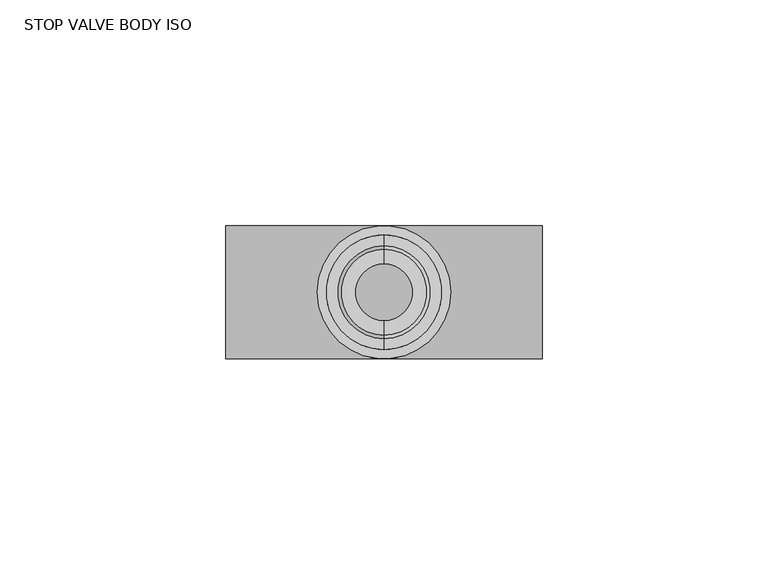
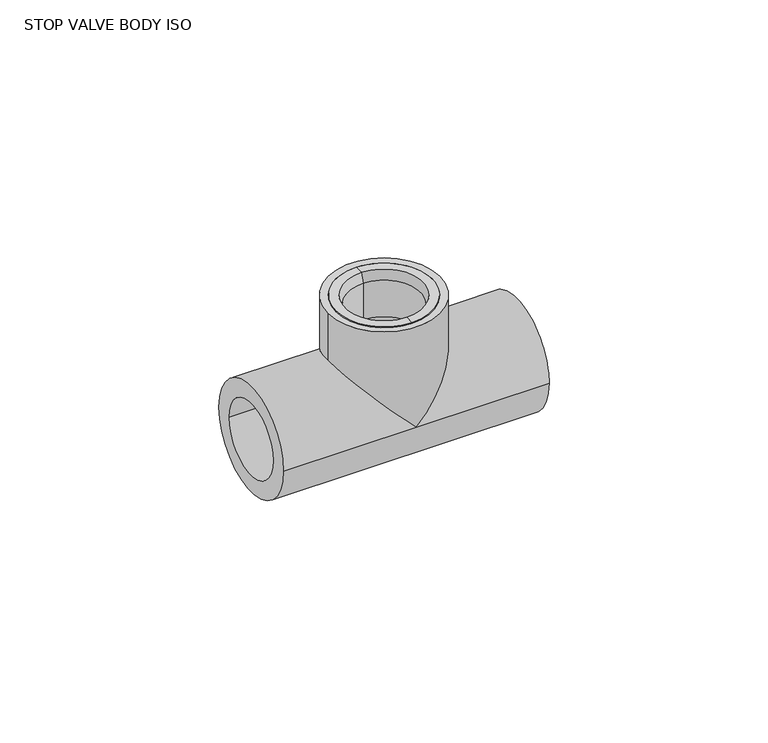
"""IFC4 building model written with IfcOpenShell, lengths in millimetres: valve geometry, Aquatherm - Stop Valve Body ISO : STOP VALVE BODY ISO."""

import ifcopenshell
import ifcopenshell.guid

model = None  # the IFC model being written
_history = None  # IfcOwnerHistory: only IFC2X3 demands one
_inside = {}  # id of a spatial element -> (the spatial element, [elements in it])
_under = {}  # id of a project, library or spatial element -> (it, [spatial elements below it])
_declared = {}  # id of a project -> (the project, [libraries it declares])
_typed = {}  # id of a type object -> (the type object, [elements of that type])
_made_of = {}  # id of a material, layer set ... -> (it, [elements and type objects made of it])


def new_model(schema):
    """Start an empty IFC model of exactly this schema.

    Asked for "IFC4X3", IfcOpenShell would pick the latest addendum, in which some entities
    have other attributes; the version numbers below select the first issue.
    IFC2X3 requires an IfcOwnerHistory on every rooted entity: one is made here for all.
    """
    global model, _history
    if schema == "IFC4X3":
        model = ifcopenshell.file(schema_version=(4, 3, 0, 0))
    else:
        model = ifcopenshell.file(schema=schema)
    _inside.clear()
    _under.clear()
    _declared.clear()
    _typed.clear()
    _made_of.clear()
    _history = None
    if model.schema == "IFC2X3":
        org = make("IfcOrganization", Name="unknown")
        user = make(
            "IfcPersonAndOrganization",
            ThePerson=make("IfcPerson", FamilyName="unknown"),
            TheOrganization=org,
        )
        app = make(
            "IfcApplication",
            ApplicationDeveloper=org,
            Version="unknown",
            ApplicationFullName="unknown",
            ApplicationIdentifier="unknown",
        )
        _history = make(
            "IfcOwnerHistory",
            OwningUser=user,
            OwningApplication=app,
            ChangeAction="ADDED",
            CreationDate=0,
        )
    return model


def make(cls, **values):
    """One entity of the class cls with the attributes given. An attribute that is None is left unset."""
    return model.create_entity(
        cls, **{name: value for name, value in values.items() if value is not None}
    )


def rooted(cls, **values):
    """An entity with a GlobalId (a new one), such as an element, a storey or a relation."""
    return make(cls, GlobalId=ifcopenshell.guid.new(), OwnerHistory=_history, **values)


def si_unit(unit_type, name, prefix=None):
    """IfcSIUnit, for example si_unit("LENGTHUNIT", "METRE", prefix="MILLI")."""
    return make("IfcSIUnit", UnitType=unit_type, Prefix=prefix, Name=name)


def assignment(units):
    """IfcUnitAssignment: the units of a project."""
    return None if units is None else make("IfcUnitAssignment", Units=units)


def point(xyz):
    """IfcCartesianPoint."""
    return None if xyz is None else make("IfcCartesianPoint", Coordinates=xyz)


def direction(xyz):
    """IfcDirection."""
    return None if xyz is None else make("IfcDirection", DirectionRatios=xyz)


def frame(location, z_axis=None, x_axis=None):
    """IfcAxis2Placement3D, a coordinate frame: its origin and axes. An axis left out is left unset."""
    return make(
        "IfcAxis2Placement3D",
        Location=point(location),
        Axis=direction(z_axis),
        RefDirection=direction(x_axis),
    )


def origin():
    """The frame at (0, 0, 0) with its axes left unset."""
    return frame((0.0, 0.0, 0.0))


def origin_with_axes():
    """The frame at (0, 0, 0) with the z axis (0, 0, 1) and the x axis (1, 0, 0) written out."""
    return frame((0.0, 0.0, 0.0), z_axis=(0.0, 0.0, 1.0), x_axis=(1.0, 0.0, 0.0))


def place(relative_to, where):
    """IfcLocalPlacement: puts the frame where relative to a parent placement (None: the world)."""
    return make(
        "IfcLocalPlacement", PlacementRelTo=relative_to, RelativePlacement=where
    )


def context(
    kind, dimensions, precision=None, world=None, true_north=None, identifier=None
):
    """IfcGeometricRepresentationContext, for example the 3D "Model" context."""
    return make(
        "IfcGeometricRepresentationContext",
        ContextIdentifier=identifier,
        ContextType=kind,
        CoordinateSpaceDimension=dimensions,
        Precision=precision,
        WorldCoordinateSystem=world,
        TrueNorth=true_north,
    )


def project(units=None, contexts=None):
    """IfcProject with its units and contexts."""
    return rooted(
        "IfcProject",
        Name="project",
        RepresentationContexts=contexts,
        UnitsInContext=assignment(units),
    )


def spatial(cls, under=None, at=None, **own):
    """A site, building, storey or space (cls), placed at a placement, below another one or the project."""
    s = rooted(cls, ObjectPlacement=at, **own)
    if under is not None:
        _under.setdefault(under.id(), (under, []))[1].append(s)
    return s


def polyline(points):
    """IfcPolyline through the points."""
    return make("IfcPolyline", Points=[point(p) for p in points])


def circle_curve(where, radius):
    """IfcCircle in the frame where."""
    return make("IfcCircle", Position=where, Radius=radius)


def ellipse_curve(where, semi_axis1, semi_axis2):
    """IfcEllipse in the frame where."""
    return make(
        "IfcEllipse", Position=where, SemiAxis1=semi_axis1, SemiAxis2=semi_axis2
    )


def shape(context_of_items, identifier, shape_type, items):
    """IfcShapeRepresentation: the items that make up one representation, for example the "Body"."""
    return make(
        "IfcShapeRepresentation",
        ContextOfItems=context_of_items,
        RepresentationIdentifier=identifier,
        RepresentationType=shape_type,
        Items=items,
    )


def source(mapping_origin, context_of_items, identifier, shape_type, items):
    """IfcRepresentationMap: a shape defined once, which mapped items show again and again."""
    return make(
        "IfcRepresentationMap",
        MappingOrigin=mapping_origin,
        MappedRepresentation=shape(context_of_items, identifier, shape_type, items),
    )


def transform(
    local_origin,
    x_axis=None,
    y_axis=None,
    z_axis=None,
    scale=None,
    scale2=None,
    scale3=None,
    uniform=True,
):
    """IfcCartesianTransformationOperator3D, or its non-uniform kind. x_axis, y_axis, z_axis: its Axis1, 2, 3."""
    if uniform:
        return make(
            "IfcCartesianTransformationOperator3D",
            Axis1=direction(x_axis),
            Axis2=direction(y_axis),
            LocalOrigin=point(local_origin),
            Scale=scale,
            Axis3=direction(z_axis),
        )
    return make(
        "IfcCartesianTransformationOperator3DnonUniform",
        Axis1=direction(x_axis),
        Axis2=direction(y_axis),
        LocalOrigin=point(local_origin),
        Scale=scale,
        Axis3=direction(z_axis),
        Scale2=scale2,
        Scale3=scale3,
    )


def mapped(mapping_source, mapping_target):
    """IfcMappedItem: shows the shape of a source again, moved by a transform."""
    return make(
        "IfcMappedItem", MappingSource=mapping_source, MappingTarget=mapping_target
    )


def made_of(thing, what):
    """Note that an element or type object is made of a material, layer set ...; save() writes the relation."""
    if what is not None:
        _made_of.setdefault(what.id(), (what, []))[1].append(thing)
    return thing


def element(
    cls,
    number,
    at=None,
    inside=None,
    cuts=None,
    type_object=None,
    material=None,
    context=None,
    identifier="Body",
    shape_type=None,
    held_by="IfcProductDefinitionShape",
    body=None,
    shapes=None,
    **own,
):
    """One element of the class cls, such as IfcWall. Its Tag is "e" and its number.

    at: its placement. inside: the storey or other place that contains it. cuts: it is an
    opening in that element (IfcRelVoidsElement). A single representation is given by context,
    identifier, shape_type and body (its items); several are given by shapes. held_by: the class
    of the entity that holds the representations. save() writes the other relations.
    """
    e = rooted(cls, Tag="e%d" % number, ObjectPlacement=at, **own)
    if body is not None:
        shapes = [shape(context, identifier, shape_type, body)]
    if shapes is not None:
        e.Representation = make(held_by, Representations=shapes)
    if inside is not None:
        _inside.setdefault(inside.id(), (inside, []))[1].append(e)
    if cuts is not None:
        rooted(
            "IfcRelVoidsElement", RelatingBuildingElement=cuts, RelatedOpeningElement=e
        )
    if type_object is not None:
        _typed.setdefault(type_object.id(), (type_object, []))[1].append(e)
    return made_of(e, material)


def aggregate(whole, parts):
    """IfcRelAggregates: a whole, such as a stair, and the parts it consists of."""
    return rooted("IfcRelAggregates", RelatingObject=whole, RelatedObjects=parts)


def save(model, path):
    """Write the relations noted so far, then the file.

    IfcRelAggregates (storeys below a building ...), IfcRelContainedInSpatialStructure (elements
    in a storey), IfcRelDefinesByType, IfcRelAssociatesMaterial and IfcRelDeclares: one each for
    every whole, place, type object, material and project.
    """
    for whole, parts in _under.values():
        aggregate(whole, parts)
    for where, things in _inside.values():
        rooted(
            "IfcRelContainedInSpatialStructure",
            RelatedElements=things,
            RelatingStructure=where,
        )
    for kind, things in _typed.values():
        rooted("IfcRelDefinesByType", RelatedObjects=things, RelatingType=kind)
    for what, things in _made_of.values():
        rooted("IfcRelAssociatesMaterial", RelatedObjects=things, RelatingMaterial=what)
    for by, libraries in _declared.values():
        rooted("IfcRelDeclares", RelatingContext=by, RelatedDefinitions=libraries)
    model.write(path)


def plane_surface(at):
    """IfcPlane: the flat surface through the origin of the frame at, square to its z axis."""
    return make("IfcPlane", Position=at)


def cylinder_surface(at, radius):
    """IfcCylindricalSurface: all points at the distance radius from the z axis of the frame at."""
    return make("IfcCylindricalSurface", Position=at, Radius=radius)


def revolved_surface(curve, axis_point, axis_direction):
    """IfcSurfaceOfRevolution: the curve turned about the line through axis_point along axis_direction."""
    return make(
        "IfcSurfaceOfRevolution",
        SweptCurve=make("IfcArbitraryOpenProfileDef", ProfileType="CURVE", Curve=curve),
        AxisPosition=make("IfcAxis1Placement", Location=point(axis_point), Axis=direction(axis_direction)),
    )


def advanced_brep(points, edges, surfaces, faces):
    """IfcAdvancedBrep: a solid bounded by faces that lie on surfaces and meet in shared edges.

    An edge is (start, end): straight between two places in points (the first is 0);
    or (start, end, curve); or (start, end, curve, False) where it runs against its curve.
    A face is (place in surfaces, loops), or (place, loops, False) where it looks against
    its surface's normal. A loop lists edges by number (the first is 1), with a minus sign
    where the edge is run from its end to its start. The first loop is the outer one.
    """
    corners = [point(p) for p in points]
    vertices = [make("IfcVertexPoint", VertexGeometry=c) for c in corners]
    made = []
    for start, end, *more in edges:
        made.append(
            make(
                "IfcEdgeCurve",
                EdgeStart=vertices[start],
                EdgeEnd=vertices[end],
                EdgeGeometry=more[0] if more else make("IfcPolyline", Points=[corners[start], corners[end]]),
                SameSense=more[1] if len(more) > 1 else True,
            )
        )
    hull = []
    for where, loops, *sense in faces:
        bounds = []
        for j, loop in enumerate(loops):
            ring = [make("IfcOrientedEdge", EdgeElement=made[abs(k) - 1], Orientation=k > 0) for k in loop]
            bounds.append(
                make(
                    "IfcFaceOuterBound" if j == 0 else "IfcFaceBound",
                    Bound=make("IfcEdgeLoop", EdgeList=ring),
                    Orientation=True,
                )
            )
        hull.append(make("IfcAdvancedFace", Bounds=bounds, FaceSurface=surfaces[where], SameSense=sense[0] if sense else True))
    return make("IfcAdvancedBrep", Outer=make("IfcClosedShell", CfsFaces=hull))


def stop_valve_body_iso_f371122f(model_context):
    return source(origin(), model_context, "Body", "AdvancedBrep", [
        advanced_brep(
        [(0.0, -9.525, 15.24), (0.0, 9.525, 15.24), (0.0, 9.525, 25.3603125), (0.0, -9.525, 25.3603125), (0.0, -10.31875, 15.24), (0.0, 10.31875, 15.24), (0.0, -10.31875, 12.065), (0.0, 10.31875, 12.065), (0.0, -6.35, 12.065), (0.0, 6.35, 12.065), (0.0, -6.35, 8.89), (0.0, 6.35, 8.89), (0.0, -12.7, 8.89), (0.0, 12.7, 8.89), (0.0, -12.7, 27.94), (0.0, 12.7, 27.94), (0.0, -10.31875, 27.94), (0.0, 10.31875, 27.94)],
        [
            (0, 1, circle_curve(frame((0.0, 0.0, 15.24), z_axis=(0.0, 0.0, -1.0), x_axis=(0.0, 1.0, 0.0)), 9.525)),
            (1, 2),
            (2, 3, circle_curve(frame((0.0, 0.0, 25.3603125), z_axis=(0.0, 0.0, 1.0), x_axis=(0.0, 1.0, 0.0)), 9.525)),
            (3, 0),
            (1, 0, circle_curve(frame((0.0, 0.0, 15.24), z_axis=(0.0, 0.0, -1.0), x_axis=(0.0, 1.0, 0.0)), 9.525)),
            (3, 2, circle_curve(frame((0.0, 0.0, 25.3603125), z_axis=(0.0, 0.0, 1.0), x_axis=(0.0, 1.0, 0.0)), 9.525)),
            (4, 5, circle_curve(frame((0.0, 0.0, 15.24), z_axis=(0.0, 0.0, -1.0), x_axis=(0.0, 1.0, 0.0)), 10.31875)),
            (5, 1),
            (0, 4),
            (5, 4, circle_curve(frame((0.0, 0.0, 15.24), z_axis=(0.0, 0.0, -1.0), x_axis=(0.0, 1.0, 0.0)), 10.31875)),
            (6, 7, circle_curve(frame((0.0, 0.0, 12.065), z_axis=(0.0, 0.0, -1.0), x_axis=(0.0, 1.0, 0.0)), 10.31875)),
            (7, 5),
            (4, 6),
            (7, 6, circle_curve(frame((0.0, 0.0, 12.065), z_axis=(0.0, 0.0, -1.0), x_axis=(0.0, 1.0, 0.0)), 10.31875)),
            (8, 9, circle_curve(frame((0.0, 0.0, 12.065), z_axis=(0.0, 0.0, -1.0), x_axis=(0.0, 1.0, 0.0)), 6.35)),
            (9, 7),
            (6, 8),
            (9, 8, circle_curve(frame((0.0, 0.0, 12.065), z_axis=(0.0, 0.0, -1.0), x_axis=(0.0, 1.0, 0.0)), 6.35)),
            (10, 11, circle_curve(frame((0.0, 0.0, 8.89), z_axis=(0.0, 0.0, -1.0), x_axis=(0.0, 1.0, 0.0)), 6.35)),
            (11, 9),
            (8, 10),
            (11, 10, circle_curve(frame((0.0, 0.0, 8.89), z_axis=(0.0, 0.0, -1.0), x_axis=(0.0, 1.0, 0.0)), 6.35)),
            (12, 13, circle_curve(frame((0.0, 0.0, 8.89), z_axis=(0.0, 0.0, -1.0), x_axis=(0.0, 1.0, 0.0)), 12.7)),
            (13, 11),
            (10, 12),
            (13, 12, circle_curve(frame((0.0, 0.0, 8.89), z_axis=(0.0, 0.0, -1.0), x_axis=(0.0, 1.0, 0.0)), 12.7)),
            (14, 15, circle_curve(frame((0.0, 0.0, 27.94), z_axis=(0.0, 0.0, -1.0), x_axis=(0.0, 1.0, 0.0)), 12.7)),
            (15, 13),
            (12, 14),
            (15, 14, circle_curve(frame((0.0, 0.0, 27.94), z_axis=(0.0, 0.0, -1.0), x_axis=(0.0, 1.0, 0.0)), 12.7)),
            (16, 17, circle_curve(frame((0.0, 0.0, 27.94), z_axis=(0.0, 0.0, -1.0), x_axis=(0.0, 1.0, 0.0)), 10.31875)),
            (17, 15),
            (14, 16),
            (17, 16, circle_curve(frame((0.0, 0.0, 27.94), z_axis=(0.0, 0.0, -1.0), x_axis=(0.0, 1.0, 0.0)), 10.31875)),
            (2, 17),
            (16, 3),
        ],
        [
            revolved_surface(polyline([(0.0, 9.525, 25.3603125), (0.0, 9.525, 15.24)]), (0.0, 0.0, 29.7732251), (0.0, 0.0, 1.0)),
            plane_surface(frame((0.0, 0.0, 15.24), z_axis=(0.0, 0.0, -1.0), x_axis=(0.0, 1.0, 0.0))),
            revolved_surface(polyline([(0.0, 10.31875, 15.24), (0.0, 10.31875, 12.065000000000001)]), (0.0, 0.0, 29.7732251), (0.0, 0.0, 1.0)),
            plane_surface(frame((0.0, 0.0, 12.065), z_axis=(0.0, 0.0, 1.0), x_axis=(0.0, 1.0, 0.0))),
            revolved_surface(polyline([(0.0, 6.35, 12.065000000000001), (0.0, 6.35, 8.89)]), (0.0, 0.0, 29.7732251), (0.0, 0.0, 1.0)),
            plane_surface(frame((0.0, 0.0, 8.89), z_axis=(0.0, 0.0, -1.0), x_axis=(0.0, 1.0, 0.0))),
            cylinder_surface(frame((0.0, 0.0, 29.7732251), z_axis=(0.0, 0.0, 1.0), x_axis=(0.0, 1.0, 0.0)), 12.7),
            plane_surface(frame((0.0, 0.0, 27.94), z_axis=(0.0, 0.0, 1.0), x_axis=(0.0, 1.0, 0.0))),
            revolved_surface(polyline([(0.0, 10.31875, 27.94), (0.0, 9.525, 25.3603125)]), (0.0, 0.0, 29.7732251), (0.0, 0.0, 1.0)),
        ],
        [
            (0, [[1, 2, 3, 4]]),
            (0, [[5, -4, 6, -2]]),
            (1, [[7, 8, -1, 9]]),
            (1, [[10, -9, -5, -8]]),
            (2, [[11, 12, -7, 13]]),
            (2, [[14, -13, -10, -12]]),
            (3, [[15, 16, -11, 17]]),
            (3, [[18, -17, -14, -16]]),
            (4, [[19, 20, -15, 21]]),
            (4, [[22, -21, -18, -20]]),
            (5, [[23, 24, -19, 25]]),
            (5, [[26, -25, -22, -24]]),
            (6, [[27, 28, -23, 29]]),
            (6, [[30, -29, -26, -28]]),
            (7, [[31, 32, -27, 33]]),
            (7, [[34, -33, -30, -32]]),
            (8, [[-3, 35, -31, 36]]),
            (8, [[-6, -36, -34, -35]]),
        ],
    ),
        advanced_brep(
        [(-35.052, -14.732, 0.0), (-35.052, 14.732, 0.0), (-35.052, -10.033, 0.0), (-35.052, 10.033, 0.0), (35.052, -14.732, 0.0), (35.052, 14.732, 0.0), (35.052, 10.033, 0.0), (35.052, -10.033, 0.0), (0.0, -14.732, 0.0), (-14.732, 0.0, 14.732), (0.0, 14.732, 0.0), (14.732, 0.0, 14.732), (-14.732, 0.0, 27.94), (14.732, 0.0, 27.94), (12.7, 0.0, 27.94), (-12.7, 0.0, 27.94), (-12.7, 0.0, 8.89), (12.7, 0.0, 8.89), (6.35, 0.0, 8.89), (-6.35, 0.0, 8.89), (20.066, -10.033, 0.0), (20.066, 10.033, 0.0), (20.066, 6.35, 0.0), (20.066, -6.35, 0.0), (0.0, 6.35, 0.0), (-20.066, 6.35, 0.0), (-20.066, -6.35, 0.0), (0.0, -6.35, 0.0), (6.35, 0.0, 6.35), (-6.35, 0.0, 6.35), (-20.066, 10.033, 0.0), (-20.066, -10.033, 0.0)],
        [
            (0, 1, circle_curve(frame((-35.052, 0.0, 0.0), z_axis=(-1.0, 0.0, 0.0), x_axis=(0.0, 1.0, 0.0)), 14.732)),
            (1, 0, circle_curve(frame((-35.052, 0.0, 0.0), z_axis=(-1.0, 0.0, 0.0), x_axis=(0.0, 1.0, 0.0)), 14.732)),
            (2, 3, circle_curve(frame((-35.052, 0.0, 0.0), z_axis=(1.0, 0.0, 0.0), x_axis=(0.0, 1.0, 0.0)), 10.033)),
            (3, 2, circle_curve(frame((-35.052, 0.0, 0.0), z_axis=(1.0, 0.0, 0.0), x_axis=(0.0, 1.0, 0.0)), 10.033)),
            (4, 5, circle_curve(frame((35.052, 0.0, 0.0), z_axis=(1.0, 0.0, 0.0), x_axis=(0.0, 1.0, 0.0)), 14.732)),
            (5, 4, circle_curve(frame((35.052, 0.0, 0.0), z_axis=(1.0, 0.0, 0.0), x_axis=(0.0, 1.0, 0.0)), 14.732)),
            (6, 7, circle_curve(frame((35.052, 0.0, 0.0), z_axis=(-1.0, 0.0, 0.0), x_axis=(0.0, 1.0, 0.0)), 10.033)),
            (7, 6, circle_curve(frame((35.052, 0.0, 0.0), z_axis=(-1.0, 0.0, 0.0), x_axis=(0.0, 1.0, 0.0)), 10.033)),
            (0, 8),
            (8, 9, ellipse_curve(frame((0.0, 0.0, 0.0), z_axis=(-0.7071067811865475, 0.0, -0.7071067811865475), x_axis=(-0.7071067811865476, 0.0, 0.7071067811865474)), 20.8341942, 14.732)),
            (9, 10, ellipse_curve(frame((0.0, 0.0, 0.0), z_axis=(-0.7071067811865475, 0.0, -0.7071067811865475), x_axis=(-0.7071067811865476, 0.0, 0.7071067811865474)), 20.8341942, 14.732)),
            (10, 1),
            (5, 10),
            (10, 11, ellipse_curve(frame((0.0, 0.0, 0.0), z_axis=(0.7071067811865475, 0.0, -0.7071067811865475), x_axis=(-0.7071067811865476, 0.0, -0.7071067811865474)), 20.8341942, 14.732)),
            (11, 8, ellipse_curve(frame((0.0, 0.0, 0.0), z_axis=(0.7071067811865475, 0.0, -0.7071067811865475), x_axis=(-0.7071067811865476, 0.0, -0.7071067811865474)), 20.8341942, 14.732)),
            (8, 4),
            (12, 13, circle_curve(frame((0.0, 0.0, 27.94), z_axis=(0.0, 0.0, 1.0), x_axis=(1.0, 0.0, 0.0)), 14.732)),
            (13, 12, circle_curve(frame((0.0, 0.0, 27.94), z_axis=(0.0, 0.0, 1.0), x_axis=(1.0, 0.0, 0.0)), 14.732)),
            (14, 15, circle_curve(frame((0.0, 0.0, 27.94), z_axis=(0.0, 0.0, -1.0), x_axis=(1.0, 0.0, 0.0)), 12.7)),
            (15, 14, circle_curve(frame((0.0, 0.0, 27.94), z_axis=(0.0, 0.0, -1.0), x_axis=(1.0, 0.0, 0.0)), 12.7)),
            (12, 9),
            (11, 13),
            (16, 17, circle_curve(frame((0.0, 0.0, 8.89), z_axis=(0.0, 0.0, 1.0), x_axis=(1.0, 0.0, 0.0)), 12.7)),
            (17, 16, circle_curve(frame((0.0, 0.0, 8.89), z_axis=(0.0, 0.0, 1.0), x_axis=(1.0, 0.0, 0.0)), 12.7)),
            (18, 19, circle_curve(frame((0.0, 0.0, 8.89), z_axis=(0.0, 0.0, -1.0), x_axis=(1.0, 0.0, 0.0)), 6.35)),
            (19, 18, circle_curve(frame((0.0, 0.0, 8.89), z_axis=(0.0, 0.0, -1.0), x_axis=(1.0, 0.0, 0.0)), 6.35)),
            (16, 15),
            (14, 17),
            (20, 7),
            (6, 21),
            (21, 20, circle_curve(frame((20.066, 0.0, 0.0), z_axis=(-1.0, 0.0, 0.0), x_axis=(0.0, 1.0, 0.0)), 10.033)),
            (20, 21, circle_curve(frame((20.066, 0.0, 0.0), z_axis=(-1.0, 0.0, 0.0), x_axis=(0.0, 1.0, 0.0)), 10.033)),
            (21, 22),
            (22, 23, circle_curve(frame((20.066, 0.0, 0.0), z_axis=(-1.0, 0.0, 0.0), x_axis=(0.0, 1.0, 0.0)), 6.35)),
            (23, 20),
            (23, 22, circle_curve(frame((20.066, 0.0, 0.0), z_axis=(-1.0, 0.0, 0.0), x_axis=(0.0, 1.0, 0.0)), 6.35)),
            (22, 24),
            (24, 25),
            (25, 26, circle_curve(frame((-20.066, 0.0, 0.0), z_axis=(-1.0, 0.0, 0.0), x_axis=(0.0, 1.0, 0.0)), 6.35)),
            (26, 27),
            (27, 23),
            (27, 28, ellipse_curve(frame((0.0, 0.0, 0.0), z_axis=(-0.7071067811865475, 0.0, 0.7071067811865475), x_axis=(-0.7071067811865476, 0.0, -0.7071067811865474)), 8.9802561, 6.35)),
            (28, 24, ellipse_curve(frame((0.0, 0.0, 0.0), z_axis=(-0.7071067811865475, 0.0, 0.7071067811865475), x_axis=(-0.7071067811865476, 0.0, -0.7071067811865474)), 8.9802561, 6.35)),
            (26, 25, circle_curve(frame((-20.066, 0.0, 0.0), z_axis=(-1.0, 0.0, 0.0), x_axis=(0.0, 1.0, 0.0)), 6.35)),
            (24, 29, ellipse_curve(frame((0.0, 0.0, 0.0), z_axis=(0.7071067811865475, 0.0, 0.7071067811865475), x_axis=(-0.7071067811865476, 0.0, 0.7071067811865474)), 8.9802561, 6.35)),
            (29, 27, ellipse_curve(frame((0.0, 0.0, 0.0), z_axis=(0.7071067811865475, 0.0, 0.7071067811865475), x_axis=(-0.7071067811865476, 0.0, 0.7071067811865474)), 8.9802561, 6.35)),
            (25, 30),
            (30, 31, circle_curve(frame((-20.066, 0.0, 0.0), z_axis=(-1.0, 0.0, 0.0), x_axis=(0.0, 1.0, 0.0)), 10.033)),
            (31, 26),
            (31, 30, circle_curve(frame((-20.066, 0.0, 0.0), z_axis=(-1.0, 0.0, 0.0), x_axis=(0.0, 1.0, 0.0)), 10.033)),
            (30, 3),
            (2, 31),
            (29, 19),
            (18, 28),
        ],
        [
            plane_surface(frame((-35.052, 0.0, 0.0), z_axis=(-1.0, 0.0, 0.0), x_axis=(0.0, 0.0, 1.0))),
            plane_surface(frame((35.052, 0.0, 0.0), z_axis=(1.0, 0.0, 0.0), x_axis=(0.0, 0.0, 1.0))),
            cylinder_surface(frame((-35.052, 0.0, 0.0), z_axis=(-1.0, 0.0, 0.0), x_axis=(0.0, 1.0, 0.0)), 14.732),
            plane_surface(frame((14.732, 0.0, 27.94), z_axis=(0.0, 0.0, 1.0), x_axis=(0.0, 1.0, 0.0))),
            cylinder_surface(origin_with_axes(), 14.732),
            plane_surface(frame((12.7, 0.0, 8.89), z_axis=(0.0, 0.0, 1.0), x_axis=(0.0, -1.0, 0.0))),
            revolved_surface(polyline([(12.7, 0.0, 27.94), (12.7, 0.0, 8.89)]), (0.0, 0.0, 8.89), (0.0, 0.0, 1.0)),
            revolved_surface(polyline([(20.066000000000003, 10.033, 0.0), (35.05200000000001, 10.033, 0.0)]), (-79.502, 0.0, 0.0), (-1.0, 0.0, 0.0)),
            plane_surface(frame((20.066, 0.0, 0.0), z_axis=(1.0, 0.0, 0.0), x_axis=(0.0, 1.0, 0.0))),
            revolved_surface(polyline([(-20.066000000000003, 6.35, 0.0), (20.066000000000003, 6.35, 0.0)]), (-79.502, 0.0, 0.0), (-1.0, 0.0, 0.0)),
            revolved_surface(polyline([(-6.34999998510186, 6.35, 0.0), (20.066000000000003, 6.35, 0.0)]), (-79.502, 0.0, 0.0), (-1.0, 0.0, 0.0)),
            revolved_surface(polyline([(-20.066000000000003, 6.35, 0.0), (6.34999998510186, 6.35, 0.0)]), (-79.502, 0.0, 0.0), (-1.0, 0.0, 0.0)),
            plane_surface(frame((-20.066, 0.0, 0.0), z_axis=(-1.0, 0.0, 0.0), x_axis=(0.0, 1.0, 0.0))),
            revolved_surface(polyline([(-35.052, 10.033, 0.0), (-20.066000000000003, 10.033, 0.0)]), (-79.502, 0.0, 0.0), (-1.0, 0.0, 0.0)),
            revolved_surface(polyline([(6.35, 0.0, 8.89), (6.35, 0.0, -6.349999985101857)]), (0.0, 0.0, 0.0), (0.0, 0.0, 1.0)),
        ],
        [
            (0, [[1, 2], [3, 4]]),
            (1, [[5, 6], [7, 8]]),
            (2, [[-1, 9, 10, 11, 12]]),
            (2, [[-6, 13, 14, 15, 16]]),
            (2, [[-2, -12, -13, -5, -16, -9]]),
            (3, [[17, 18], [19, 20]]),
            (4, [[-17, 21, -10, -15, 22]]),
            (4, [[-18, -22, -14, -11, -21]]),
            (5, [[23, 24], [25, 26]]),
            (6, [[-23, 27, -19, 28]]),
            (6, [[-24, -28, -20, -27]]),
            (7, [[29, -7, 30, 31]]),
            (7, [[-29, 32, -30, -8]]),
            (8, [[-31, 33, 34, 35]]),
            (8, [[-32, -35, 36, -33]]),
            (9, [[-34, 37, 38, 39, 40, 41]]),
            (10, [[-36, -41, 42, 43, -37]]),
            (11, [[44, -38, 45, 46, -40]]),
            (12, [[-39, 47, 48, 49]]),
            (12, [[-44, -49, 50, -47]]),
            (13, [[-48, 51, -3, 52]]),
            (13, [[-50, -52, -4, -51]]),
            (14, [[53, -25, 54, -42, -46]]),
            (14, [[-53, -45, -43, -54, -26]]),
        ],
    ),
    ])


if __name__ == "__main__":
    model = new_model("IFC4")
    model_context = context("Model", 3, world=origin())
    ifc_project = project(units=[si_unit("LENGTHUNIT", "METRE", prefix="MILLI")], contexts=[model_context])
    site = spatial("IfcSite", under=ifc_project)
    building = spatial("IfcBuilding", under=site)
    placement = place(None, origin())
    stop_valve_body_iso_shape = stop_valve_body_iso_f371122f(model_context)
    element("IfcValve", 1, ObjectType="Aquatherm - Stop Valve Body ISO : STOP VALVE BODY ISO", at=placement, inside=building, context=model_context, shape_type="MappedRepresentation", body=[
        mapped(stop_valve_body_iso_shape, transform((0.0, 0.0, 0.0), x_axis=(1.0, 0.0, 0.0), y_axis=(0.0, 1.0, 0.0), z_axis=(0.0, 0.0, 1.0))),
    ])
    save(model, "model.ifc")
